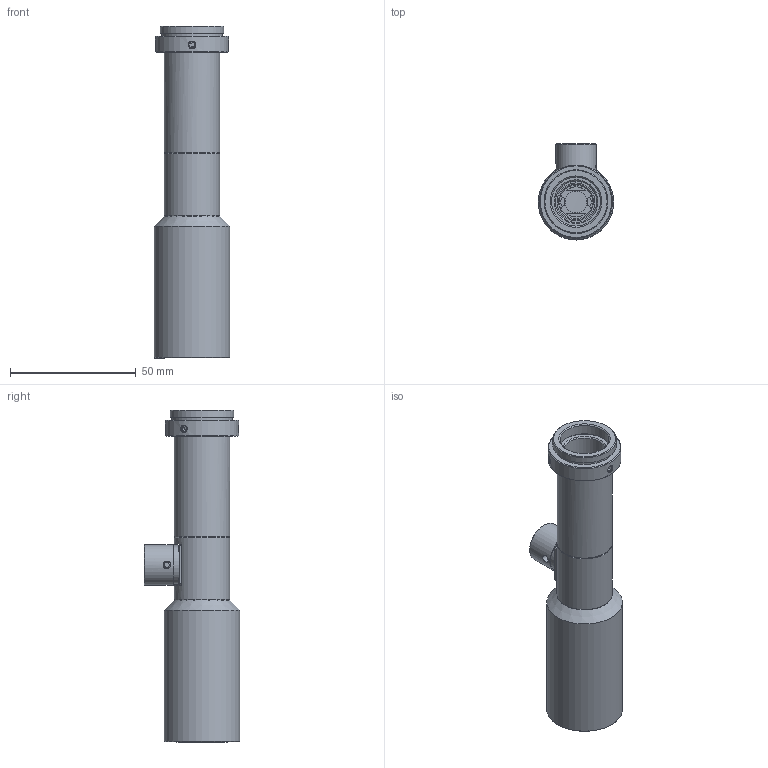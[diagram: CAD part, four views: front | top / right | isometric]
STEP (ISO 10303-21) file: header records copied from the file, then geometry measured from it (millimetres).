
FILE_DESCRIPTION(('STEP AP214'),'1');
FILE_NAME('RTK-1F-M110.stp','2026-08-03T02:30:01',(' '),(' '),'Spatial InterOp 3D',' ',' ');
FILE_SCHEMA(('AUTOMOTIVE_DESIGN { 1 0 10303 214 1 1 1 1 }'));
Length unit declared in the file: metre
Products named in the file (2): RTK-1F-M110; Component1
Assembly tree (1 placements, depth 2):
  RTK-1F-M110
    Component1
Bounding box: 30 x 38 x 131.77 mm (x, y, z)
Volume: 33348.7 mm3; surface area: 23602.5 mm2
Topology: 1 solids, 11 shells, 318 faces, 748 edges, 487 vertices
Faces by surface type: plane 169, cylinder 70, cone 60, torus 8, sphere 6, bspline 5
Full cylindrical faces by diameter (mm): 1.7 x8, 1.8 x4, 2.5 x6, 3 x3, 6.5 x1, 8 x1, 8.7 x1, 9 x1, 12.5 x1, 13.4 x1, 14.2 x2, 15 x1, 15.5 x1, 16 x1, 16.4 x1, 17.2 x1, 17.4 x1, 18 x1, 18.2 x1, 19 x3, 19.4 x1, 22 x3, 22.5 x1, 23.6 x1, 24 x1, 24.12 x1, 25.32 x1, 27 x1, 29 x1, 30 x1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
Entity records: 11486 total; most frequent: CARTESIAN_POINT 2240, DIRECTION 1435, ORIENTED_EDGE 1164, AXIS2_PLACEMENT_3D 602, EDGE_CURVE 582, EDGE_LOOP 476, VERTEX_POINT 435, FACE_OUTER_BOUND 381
